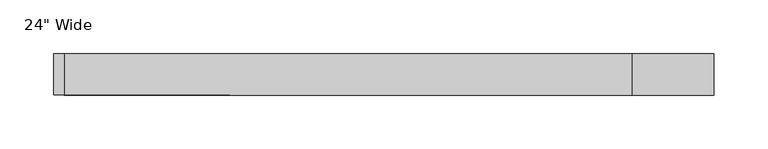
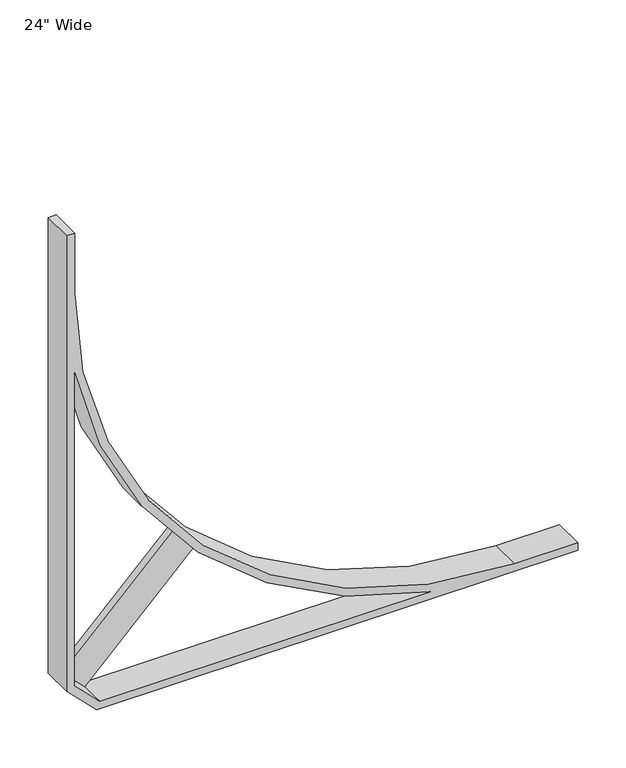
"""IFC4 building model written with IfcOpenShell, lengths in millimetres: electric appliance geometry."""

from ifc_helpers import new_model, si_unit, point, frame, frame_2d, origin, place, context, project, spatial, polyline, circle_curve, trimmed, segment, composite_curve, outline, extrude, source, transform, mapped, element, save


def electric_appliance_22094441(model_context):
    return source(origin(), model_context, "Body", "SweptSolid", [
        extrude(outline(composite_curve([segment(polyline([(170.8687577, 143.9279893), (38.1660885, 11.2253202), (11.2253202, 38.1660885), (143.9279893, 170.8687577)]), True, "CONTINUOUS"), segment(trimmed(circle_curve(frame_2d((536.575, 536.575)), 536.575), [point((143.9279893, 170.8687577))], [point((170.8687577, 143.9279893))], True, "CARTESIAN"), True, "CONTINUOUS")], self_intersect=False)), frame((0.0, -9.525, 0.0), z_axis=(0.0, 1.0, 0.0), x_axis=(0.0, 0.0, 1.0)), (0.0, 0.0, 1.0), 9.525),
        extrude(outline(composite_curve([segment(polyline([(612.775, 9.525), (612.775, 0.0), (35.9210245, 0.0), (0.0, 35.9210245), (0.0, 612.775), (9.525, 612.775), (9.525, 536.575)]), True, "CONTINUOUS"), segment(trimmed(circle_curve(frame_2d((536.575, 536.575)), 527.05), [point((9.525, 536.575))], [point((536.575, 9.525))], True, "CARTESIAN"), True, "CONTINUOUS"), segment(polyline([(536.575, 9.525), (612.775, 9.525)]), True, "CONTINUOUS")], self_intersect=False), holes=[composite_curve([segment(polyline([(39.8664087, 9.525), (435.9219915, 9.525)]), True, "CONTINUOUS"), segment(trimmed(circle_curve(frame_2d((536.575, 536.575)), 536.575), [point((435.9219915, 9.525))], [point((9.525, 435.9219915))], False, "CARTESIAN"), True, "CONTINUOUS"), segment(polyline([(9.525, 435.9219915), (9.525, 39.8664087), (39.8664087, 9.525)]), True, "CONTINUOUS")], self_intersect=False)]), frame((0.0, -38.1, 0.0), z_axis=(0.0, 1.0, 0.0), x_axis=(0.0, 0.0, 1.0)), (0.0, 0.0, 1.0), 38.1),
    ])


if __name__ == "__main__":
    model = new_model("IFC4")
    model_context = context("Model", 3, world=origin())
    ifc_project = project(units=[si_unit("LENGTHUNIT", "METRE", prefix="MILLI")], contexts=[model_context])
    site = spatial("IfcSite", under=ifc_project)
    building = spatial("IfcBuilding", under=site)
    placement = place(None, origin())
    electric_appliance_shape = electric_appliance_22094441(model_context)
    element("IfcElectricAppliance", 1, ObjectType="Cable_Tray_Accessory-Chatsworth-Corner Bracket : 24\" Wide", at=placement, inside=building, context=model_context, shape_type="MappedRepresentation", body=[
        mapped(electric_appliance_shape, transform((0.0, 0.0, 0.0), x_axis=(1.0, 0.0, 0.0), y_axis=(0.0, 1.0, 0.0), z_axis=(0.0, 0.0, 1.0))),
    ])
    save(model, "model.ifc")
